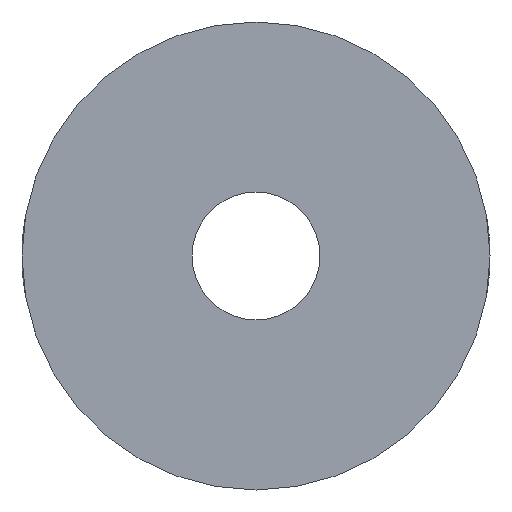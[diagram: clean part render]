
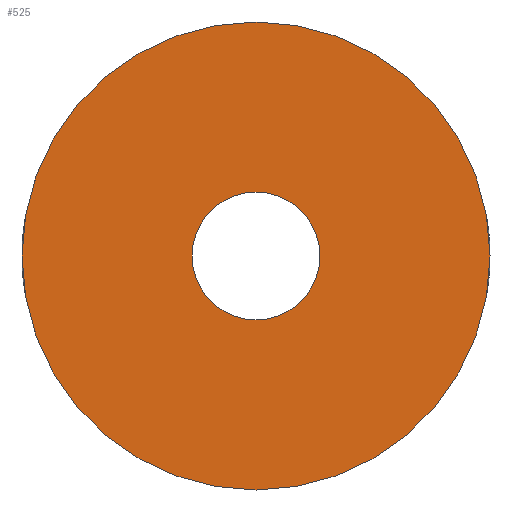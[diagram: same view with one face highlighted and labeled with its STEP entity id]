
A CAD part, left-side view. The second image highlights one B-rep face of the part: STEP entity #525.
In plain terms, the highlighted planar face has unit normal (-1, 0, 0).
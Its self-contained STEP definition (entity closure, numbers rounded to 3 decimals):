
#21 = EDGE_CURVE('',#22,#22,#24,.T.);
#22 = VERTEX_POINT('',#23);
#23 = CARTESIAN_POINT('',(48.4,15.,0.));
#24 = SURFACE_CURVE('',#25,(#30,#42),.PCURVE_S1.);
#25 = CIRCLE('',#26,15.);
#26 = AXIS2_PLACEMENT_3D('',#27,#28,#29);
#27 = CARTESIAN_POINT('',(48.4,0.,0.));
#28 = DIRECTION('',(1.,0.,0.));
#29 = DIRECTION('',(0.,1.,0.));
#30 = PCURVE('',#31,#36);
#31 = CYLINDRICAL_SURFACE('',#32,15.);
#32 = AXIS2_PLACEMENT_3D('',#33,#34,#35);
#33 = CARTESIAN_POINT('',(48.4,0.,0.));
#34 = DIRECTION('',(-1.,-0.,-0.));
#35 = DIRECTION('',(0.,1.,0.));
#36 = DEFINITIONAL_REPRESENTATION('',(#37),#41);
#37 = LINE('',#38,#39);
#38 = CARTESIAN_POINT('',(-0.,0.));
#39 = VECTOR('',#40,1.);
#40 = DIRECTION('',(-1.,0.));
#41 = ( GEOMETRIC_REPRESENTATION_CONTEXT(2) 
PARAMETRIC_REPRESENTATION_CONTEXT() REPRESENTATION_CONTEXT('2D SPACE',''
  ) );
#42 = PCURVE('',#43,#48);
#43 = PLANE('',#44);
#44 = AXIS2_PLACEMENT_3D('',#45,#46,#47);
#45 = CARTESIAN_POINT('',(48.4,0.,0.));
#46 = DIRECTION('',(1.,0.,0.));
#47 = DIRECTION('',(-0.,0.,1.));
#48 = DEFINITIONAL_REPRESENTATION('',(#49),#53);
#49 = CIRCLE('',#50,15.);
#50 = AXIS2_PLACEMENT_2D('',#51,#52);
#51 = CARTESIAN_POINT('',(0.,0.));
#52 = DIRECTION('',(0.,-1.));
#53 = ( GEOMETRIC_REPRESENTATION_CONTEXT(2) 
PARAMETRIC_REPRESENTATION_CONTEXT() REPRESENTATION_CONTEXT('2D SPACE',''
  ) );
#525 = ADVANCED_FACE('',(#526,#529),#43,.F.);
#526 = FACE_BOUND('',#527,.F.);
#527 = EDGE_LOOP('',(#528));
#528 = ORIENTED_EDGE('',*,*,#21,.T.);
#529 = FACE_BOUND('',#530,.F.);
#530 = EDGE_LOOP('',(#531));
#531 = ORIENTED_EDGE('',*,*,#532,.T.);
#532 = EDGE_CURVE('',#533,#533,#535,.T.);
#533 = VERTEX_POINT('',#534);
#534 = CARTESIAN_POINT('',(48.4,4.1,0.));
#535 = SURFACE_CURVE('',#536,(#541,#552),.PCURVE_S1.);
#536 = CIRCLE('',#537,4.1);
#537 = AXIS2_PLACEMENT_3D('',#538,#539,#540);
#538 = CARTESIAN_POINT('',(48.4,0.,0.));
#539 = DIRECTION('',(-1.,0.,0.));
#540 = DIRECTION('',(0.,1.,0.));
#541 = PCURVE('',#43,#542);
#542 = DEFINITIONAL_REPRESENTATION('',(#543),#551);
#543 = ( BOUNDED_CURVE() B_SPLINE_CURVE(2,(#544,#545,#546,#547,#548,#549
,#550),.UNSPECIFIED.,.T.,.F.) B_SPLINE_CURVE_WITH_KNOTS((1,2,2,2,2,1),(
    -2.094,0.,2.094,4.189,6.283,
8.378),.UNSPECIFIED.) CURVE() GEOMETRIC_REPRESENTATION_ITEM() 
RATIONAL_B_SPLINE_CURVE((1.,0.5,1.,0.5,1.,0.5,1.)) REPRESENTATION_ITEM(
  '') );
#544 = CARTESIAN_POINT('',(0.,-4.1));
#545 = CARTESIAN_POINT('',(-7.101,-4.1));
#546 = CARTESIAN_POINT('',(-3.551,2.05));
#547 = CARTESIAN_POINT('',(0.,8.2));
#548 = CARTESIAN_POINT('',(3.551,2.05));
#549 = CARTESIAN_POINT('',(7.101,-4.1));
#550 = CARTESIAN_POINT('',(0.,-4.1));
#551 = ( GEOMETRIC_REPRESENTATION_CONTEXT(2) 
PARAMETRIC_REPRESENTATION_CONTEXT() REPRESENTATION_CONTEXT('2D SPACE',''
  ) );
#552 = PCURVE('',#553,#558);
#553 = CYLINDRICAL_SURFACE('',#554,4.1);
#554 = AXIS2_PLACEMENT_3D('',#555,#556,#557);
#555 = CARTESIAN_POINT('',(47.4,0.,0.));
#556 = DIRECTION('',(-1.,-0.,-0.));
#557 = DIRECTION('',(0.,1.,0.));
#558 = DEFINITIONAL_REPRESENTATION('',(#559),#563);
#559 = LINE('',#560,#561);
#560 = CARTESIAN_POINT('',(-6.283,-1.));
#561 = VECTOR('',#562,1.);
#562 = DIRECTION('',(1.,-0.));
#563 = ( GEOMETRIC_REPRESENTATION_CONTEXT(2) 
PARAMETRIC_REPRESENTATION_CONTEXT() REPRESENTATION_CONTEXT('2D SPACE',''
  ) );
